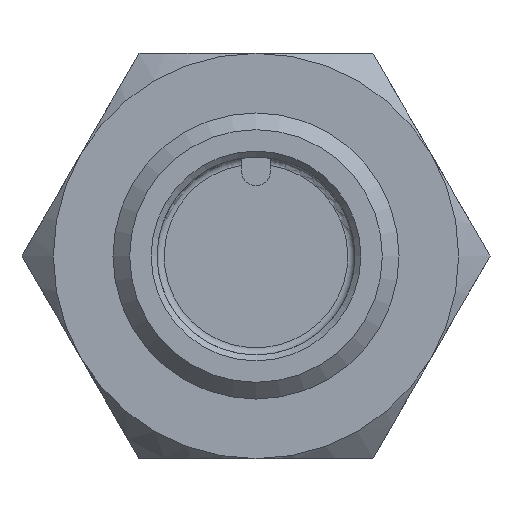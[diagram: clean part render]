
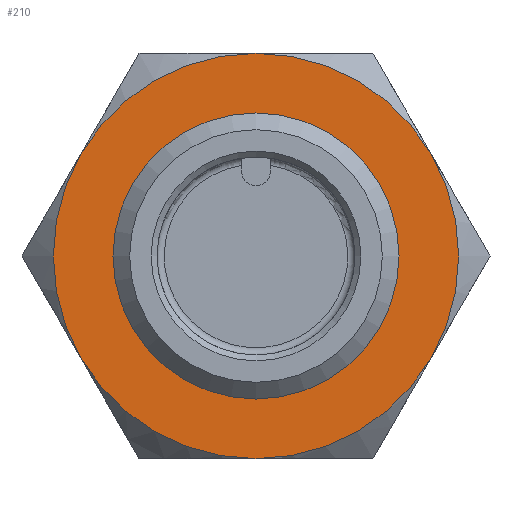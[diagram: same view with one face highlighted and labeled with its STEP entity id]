
A CAD part, left-side view. The second image highlights one B-rep face of the part: STEP entity #210.
In plain terms, the highlighted planar face has unit normal (-1, 0, 0).
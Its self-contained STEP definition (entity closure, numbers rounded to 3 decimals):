
#210 = ADVANCED_FACE( '', ( #315, #316 ), #317, .F. );
#315 = FACE_OUTER_BOUND( '', #447, .T. );
#316 = FACE_BOUND( '', #448, .T. );
#317 = PLANE( '', #449 );
#447 = EDGE_LOOP( '', ( #659, #660, #661, #662, #663, #664 ) );
#448 = EDGE_LOOP( '', ( #665 ) );
#449 = AXIS2_PLACEMENT_3D( '', #666, #667, #668 );
#659 = ORIENTED_EDGE( '', *, *, #857, .F. );
#660 = ORIENTED_EDGE( '', *, *, #858, .F. );
#661 = ORIENTED_EDGE( '', *, *, #859, .F. );
#662 = ORIENTED_EDGE( '', *, *, #860, .F. );
#663 = ORIENTED_EDGE( '', *, *, #861, .F. );
#664 = ORIENTED_EDGE( '', *, *, #862, .F. );
#665 = ORIENTED_EDGE( '', *, *, #863, .T. );
#666 = CARTESIAN_POINT( '', ( 0., 0., 0. ) );
#667 = DIRECTION( '', ( 1., 0., 0. ) );
#668 = DIRECTION( '', ( 0., 0., -1. ) );
#857 = EDGE_CURVE( '', #972, #973, #974, .T. );
#858 = EDGE_CURVE( '', #975, #972, #976, .T. );
#859 = EDGE_CURVE( '', #977, #975, #978, .T. );
#860 = EDGE_CURVE( '', #979, #977, #980, .T. );
#861 = EDGE_CURVE( '', #981, #979, #982, .T. );
#862 = EDGE_CURVE( '', #973, #981, #983, .T. );
#863 = EDGE_CURVE( '', #984, #984, #985, .T. );
#972 = VERTEX_POINT( '', #1437 );
#973 = VERTEX_POINT( '', #1438 );
#974 = CIRCLE( '', #1439, 8.5 );
#975 = VERTEX_POINT( '', #1440 );
#976 = CIRCLE( '', #1441, 8.5 );
#977 = VERTEX_POINT( '', #1442 );
#978 = CIRCLE( '', #1443, 8.5 );
#979 = VERTEX_POINT( '', #1444 );
#980 = CIRCLE( '', #1445, 8.5 );
#981 = VERTEX_POINT( '', #1446 );
#982 = CIRCLE( '', #1447, 8.5 );
#983 = CIRCLE( '', #1448, 8.5 );
#984 = VERTEX_POINT( '', #1449 );
#985 = CIRCLE( '', #1450, 6. );
#1437 = CARTESIAN_POINT( '', ( 0., 7.361, -4.25 ) );
#1438 = CARTESIAN_POINT( '', ( 0., 7.361, 4.25 ) );
#1439 = AXIS2_PLACEMENT_3D( '', #1750, #1751, #1752 );
#1440 = CARTESIAN_POINT( '', ( 0., 0., -8.5 ) );
#1441 = AXIS2_PLACEMENT_3D( '', #1753, #1754, #1755 );
#1442 = CARTESIAN_POINT( '', ( 0., -7.361, -4.25 ) );
#1443 = AXIS2_PLACEMENT_3D( '', #1756, #1757, #1758 );
#1444 = CARTESIAN_POINT( '', ( 0., -7.361, 4.25 ) );
#1445 = AXIS2_PLACEMENT_3D( '', #1759, #1760, #1761 );
#1446 = CARTESIAN_POINT( '', ( 0., 0., 8.5 ) );
#1447 = AXIS2_PLACEMENT_3D( '', #1762, #1763, #1764 );
#1448 = AXIS2_PLACEMENT_3D( '', #1765, #1766, #1767 );
#1449 = CARTESIAN_POINT( '', ( 0., 0., -6. ) );
#1450 = AXIS2_PLACEMENT_3D( '', #1768, #1769, #1770 );
#1750 = CARTESIAN_POINT( '', ( 0., 0., 0. ) );
#1751 = DIRECTION( '', ( 1., 0., 0. ) );
#1752 = DIRECTION( '', ( 0., 0., -1. ) );
#1753 = CARTESIAN_POINT( '', ( 0., 0., 0. ) );
#1754 = DIRECTION( '', ( 1., 0., 0. ) );
#1755 = DIRECTION( '', ( 0., 0., -1. ) );
#1756 = CARTESIAN_POINT( '', ( 0., 0., 0. ) );
#1757 = DIRECTION( '', ( 1., 0., 0. ) );
#1758 = DIRECTION( '', ( 0., 0., -1. ) );
#1759 = CARTESIAN_POINT( '', ( 0., 0., 0. ) );
#1760 = DIRECTION( '', ( 1., 0., 0. ) );
#1761 = DIRECTION( '', ( 0., 0., -1. ) );
#1762 = CARTESIAN_POINT( '', ( 0., 0., 0. ) );
#1763 = DIRECTION( '', ( 1., 0., 0. ) );
#1764 = DIRECTION( '', ( 0., 0., -1. ) );
#1765 = CARTESIAN_POINT( '', ( 0., 0., 0. ) );
#1766 = DIRECTION( '', ( 1., 0., 0. ) );
#1767 = DIRECTION( '', ( 0., 0., -1. ) );
#1768 = CARTESIAN_POINT( '', ( 0., 0., 0. ) );
#1769 = DIRECTION( '', ( 1., 0., 0. ) );
#1770 = DIRECTION( '', ( 0., 0., -1. ) );
